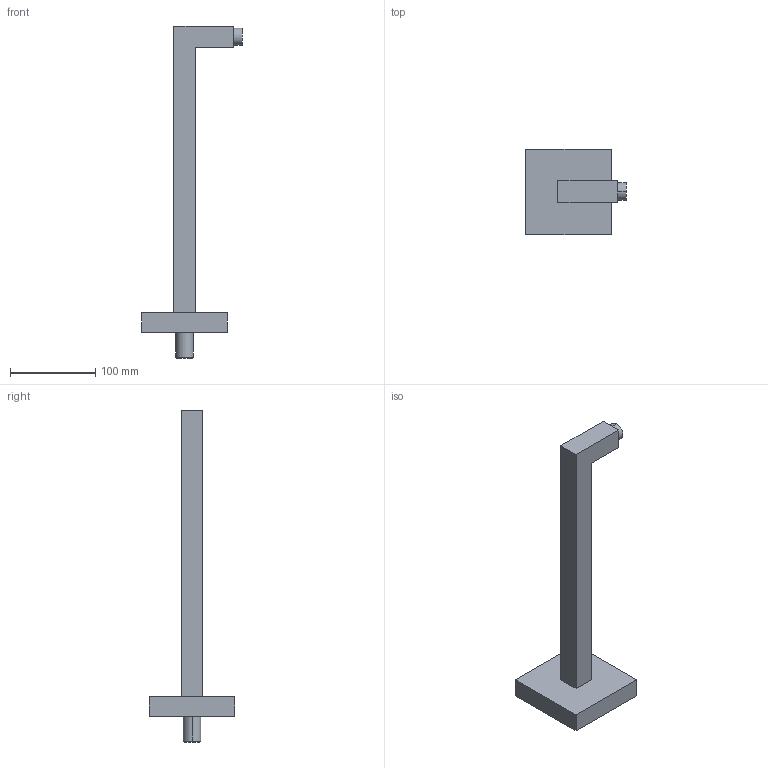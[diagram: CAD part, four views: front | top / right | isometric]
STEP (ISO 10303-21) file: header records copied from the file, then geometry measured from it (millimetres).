
FILE_DESCRIPTION (( 'STEP AP203' ), '1' );
FILE_NAME ('ARM2.STEP', '2017-01-13T07:35:34', ( '' ), ( '' ), 'SwSTEP 2.0', 'SolidWorks 2014', '' );
FILE_SCHEMA (( 'CONFIG_CONTROL_DESIGN' ));
Length unit declared in the file: millimetre
Products named in the file (1): ARM2
Bounding box: 117.5 x 100 x 388.5 mm (x, y, z)
Volume: 480985.1 mm3; surface area: 69785.3 mm2
Topology: 1 solids, 1 shells, 21 faces, 46 edges, 30 vertices
Faces by surface type: plane 15, cylinder 4, cone 2
Entity records: 651 total; most frequent: DIRECTION 100, CARTESIAN_POINT 98, ORIENTED_EDGE 92, EDGE_CURVE 46, VECTOR 36, LINE 36, AXIS2_PLACEMENT_3D 32, VERTEX_POINT 30
